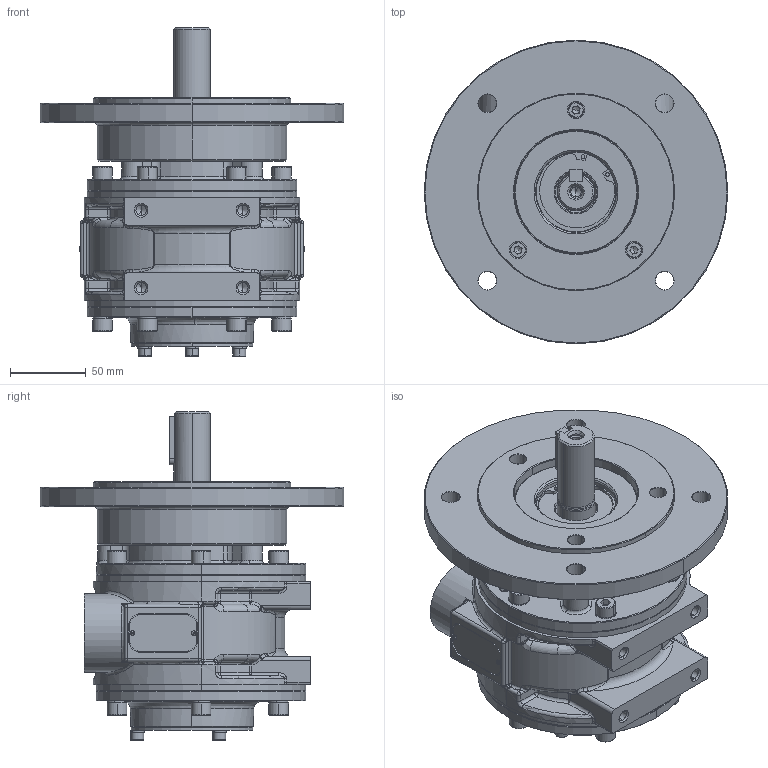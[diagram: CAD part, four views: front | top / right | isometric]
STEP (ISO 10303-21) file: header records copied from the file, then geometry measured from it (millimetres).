
FILE_DESCRIPTION (( 'STEP AP214' ), '1' );
FILE_NAME ('8VMD-IEC-SGI (22-04-26).STEP', '2026-04-23T05:44:31', ( '' ), ( '' ), 'SwSTEP 2.0', 'SolidWorks 2017', '' );
FILE_SCHEMA (( 'AUTOMOTIVE_DESIGN' ));
Length unit declared in the file: millimetre
Products named in the file (2): 8VMD-IEC-SGI (22-04-26)
Bounding box: 200 x 200 x 216.58 mm (x, y, z)
Volume: 1132054.8 mm3; surface area: 328176.3 mm2
Topology: 51 solids, 53 shells, 2083 faces, 4758 edges, 2711 vertices
Faces by surface type: cylinder 645, cone 538, plane 495, torus 211, bspline 162, sphere 32
Entity records: 413024 total; most frequent: CARTESIAN_POINT 205623, ORIENTED_EDGE 31770, DIRECTION 23300, EDGE_CURVE 15885, VERTEX_POINT 10083, EDGE_LOOP 9118, AXIS2_PLACEMENT_3D 8751, B_SPLINE_CURVE_WITH_KNOTS 7040
